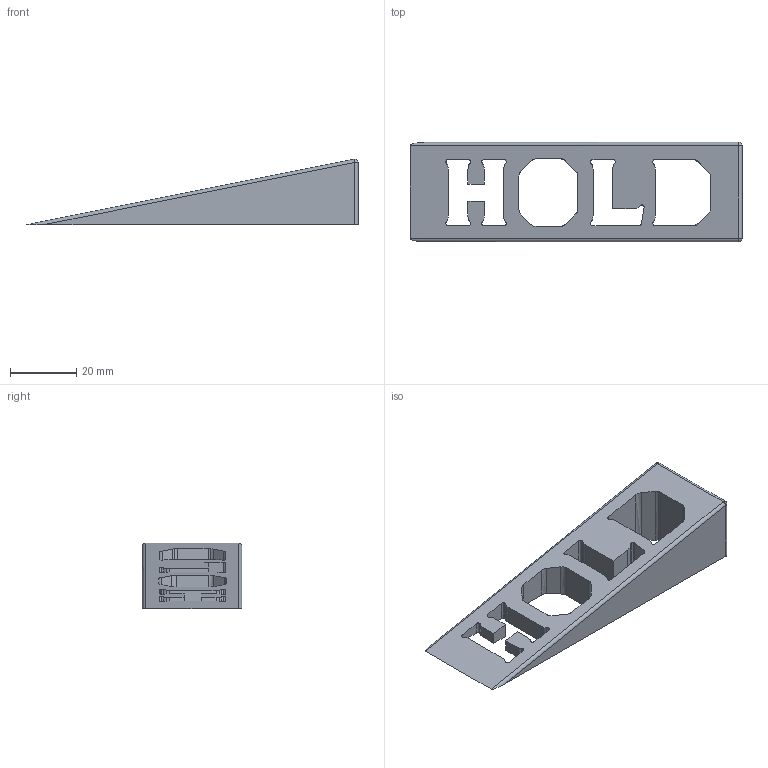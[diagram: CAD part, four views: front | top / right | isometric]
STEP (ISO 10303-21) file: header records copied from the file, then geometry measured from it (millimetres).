
FILE_DESCRIPTION(/* description */ (''),/* implementation_level */ '2;1');
FILE_NAME(/* name */ 'Hold_step_file.step',/* time_stamp */ '2024-04-12T23:12:33+07:00',/* author */ (''),/* organization */ (''),/* preprocessor_version */ 'ST-DEVELOPER v20',/* originating_system */ 'Autodesk Translation Framework v12.20.1.177',/* authorisation */ '');
FILE_SCHEMA (('AUTOMOTIVE_DESIGN { 1 0 10303 214 3 1 1 }'));
Length unit declared in the file: millimetre
Products named in the file (1): (Unsaved)
Bounding box: 100 x 30 x 19.78 mm (x, y, z)
Volume: 18942.2 mm3; surface area: 9331.9 mm2
Topology: 1 solids, 1 shells, 124 faces, 360 edges, 238 vertices
Faces by surface type: bspline 80, plane 37, cylinder 5, sphere 2
Entity records: 5692 total; most frequent: CARTESIAN_POINT 2920, ORIENTED_EDGE 720, EDGE_CURVE 360, DIRECTION 300, VERTEX_POINT 238, LINE 190, VECTOR 190, B_SPLINE_CURVE_WITH_KNOTS 160
